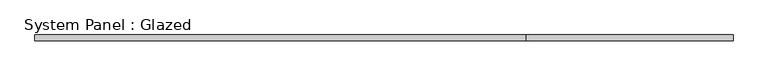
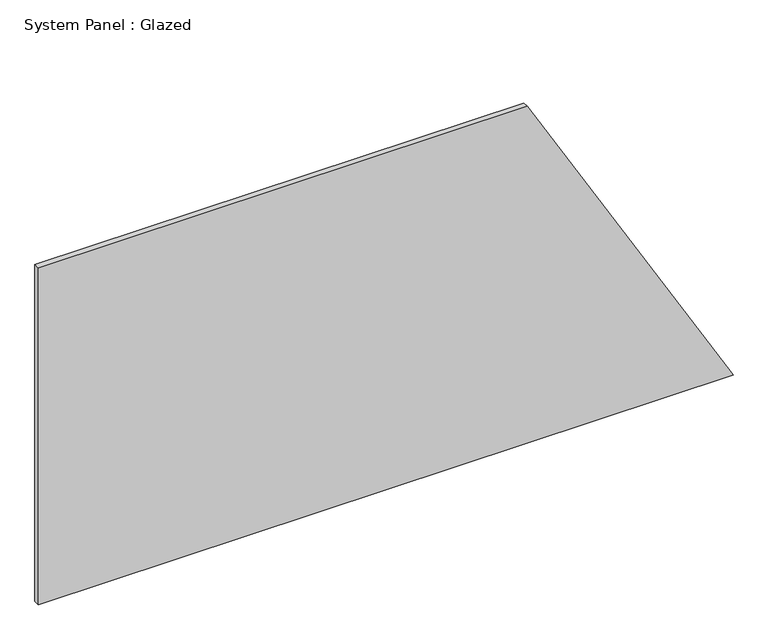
"""IFC4 building model written with IfcOpenShell, lengths in millimetres: plate geometry, System Panel : Glazed."""

from ifc_helpers import new_model, si_unit, frame, origin, place, context, project, spatial, polyline, outline, extrude, source, transform, mapped, element, save


def system_panel_glazed_304d5fd4(model_context):
    return source(origin(), model_context, "Body", "SweptSolid", [
        extrude(outline(polyline([(0.0, -1486.1101418), (0.0, 1486.1101418), (1524.0, 606.2283315), (1524.0, -1486.1101418), (0.0, -1486.1101418)])), frame((0.0, 19.05, 0.0), z_axis=(0.0, 1.0, 0.0), x_axis=(0.0, 0.0, 1.0)), (0.0, 0.0, 1.0), 25.4),
    ])


if __name__ == "__main__":
    model = new_model("IFC4")
    model_context = context("Model", 3, world=origin())
    ifc_project = project(units=[si_unit("LENGTHUNIT", "METRE", prefix="MILLI")], contexts=[model_context])
    site = spatial("IfcSite", under=ifc_project)
    building = spatial("IfcBuilding", under=site)
    placement = place(None, origin())
    system_panel_glazed_shape = system_panel_glazed_304d5fd4(model_context)
    element("IfcPlate", 1, ObjectType="System Panel : Glazed", at=placement, inside=building, context=model_context, shape_type="MappedRepresentation", body=[
        mapped(system_panel_glazed_shape, transform((0.0, 0.0, 0.0), x_axis=(1.0, 0.0, 0.0), y_axis=(0.0, 1.0, 0.0), z_axis=(0.0, 0.0, 1.0))),
    ])
    save(model, "model.ifc")
